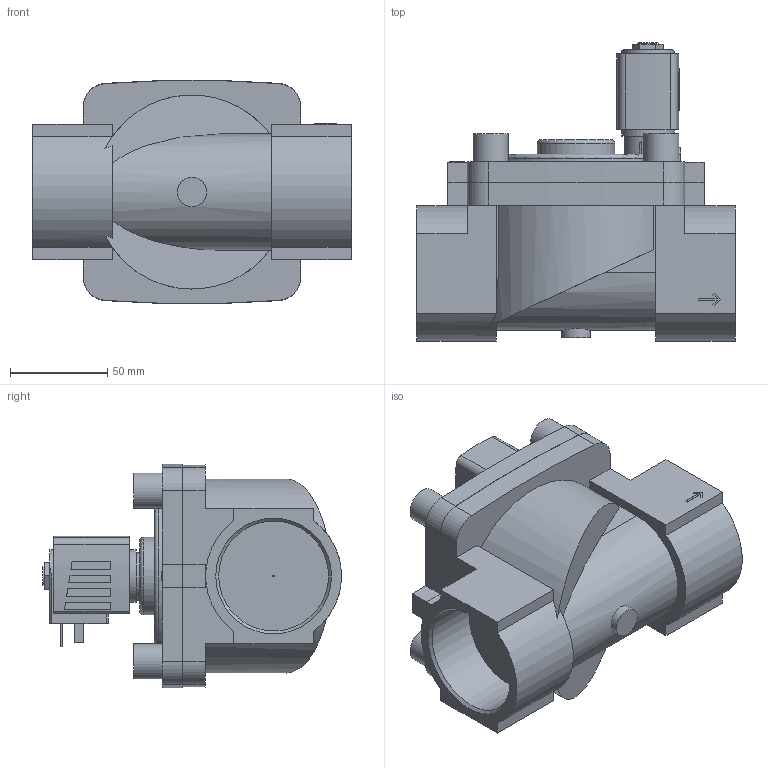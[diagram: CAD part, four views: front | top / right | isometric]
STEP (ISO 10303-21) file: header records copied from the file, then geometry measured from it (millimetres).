
FILE_DESCRIPTION(/* description */ ('STEP AP214'),/* implementation_level */ '2;1');
FILE_NAME(/* name */ '6281-338019-2_2-Way_Solenoid_Valve__Servo-assisted__General_Purpose',/* time_stamp */ '2024-09-09T10:28:04+02:00',/* author */ ('License CC BY-ND 4.0'),/* organization */ ('CADENAS'),/* preprocessor_version */ 'ST-DEVELOPER v19.3',/* originating_system */ 'PARTsolutions',/* authorisation */ ' ');
FILE_SCHEMA (('AUTOMOTIVE_DESIGN {1 0 10303 214 3 1 1}'));
Length unit declared in the file: millimetre
Products named in the file (4): 6281-338019-2/2-Way Solenoid Valve, Servo-assisted, General Purpose; 5281ev500MS2/2-Wege-Magnetventil mit Servomembran-Deckel 115 ; 5281ge-50 G2 MS; AC10ex-5NA38-Plan-Coil
Assembly tree (3 placements, depth 2):
  6281-338019-2/2-Way Solenoid Valve, Servo-assisted, General Purpose
    5281ev500MS2/2-Wege-Magnetventil mit Servomembran-Deckel 115 
    5281ge-50 G2 MS
    AC10ex-5NA38-Plan-Coil
Bounding box: 164 x 153.87 x 114.92 mm (x, y, z)
Volume: 976968.2 mm3; surface area: 124876.6 mm2
Topology: 3 solids, 3 shells, 242 faces, 626 edges, 416 vertices
Faces by surface type: plane 173, cylinder 58, cone 9, torus 2
Full cylindrical faces by diameter (mm): 1 x1, 2.013 x1, 9.74 x1, 15 x1, 18 x4, 27 x1, 40 x1, 56.656 x2
Entity records: 8570 total; most frequent: CARTESIAN_POINT 1367, DIRECTION 1222, ORIENTED_EDGE 1204, EDGE_CURVE 602, LINE 418, VECTOR 418, VERTEX_POINT 408, AXIS2_PLACEMENT_3D 402
